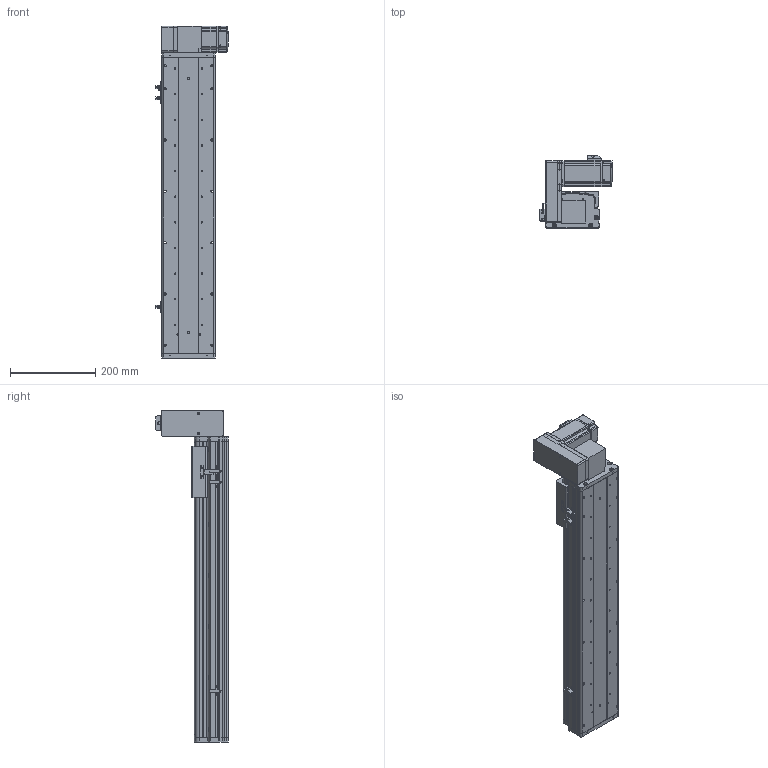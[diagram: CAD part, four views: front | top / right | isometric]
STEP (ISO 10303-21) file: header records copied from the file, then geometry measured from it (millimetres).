
FILE_DESCRIPTION (( 'STEP AP214' ), '1' );
FILE_NAME ('KSD125B-S500-MRU-CM.STEP', '2017-10-21T07:27:01', ( '微软用户' ), ( '微软中国' ), 'SwSTEP 2.0', 'SolidWorks 2014', '' );
FILE_SCHEMA (( 'AUTOMOTIVE_DESIGN' ));
Length unit declared in the file: millimetre
Products named in the file (17): KSD125B-S500-MRU-CM; 悵誘欶奻狟殏; HTPA30S3M150_A_H6_a佪裝蚚; HTPA30S3M150_A_H6_a萇儂蚚; 100宽马达安装板连板上下折丝杆同步带; MHMD042G1CA_2_03; KSD125模组同步带-防撞垫2; 覜茼え68遵圉猾敕; U倰嫖萇假蚾璃; U倰嫖萇EEㄜSX672; KSD125模组同步带-防撞垫1; 100宽马达安装板同步带右; 前端板-125宽模组同步带; 125模组同步带-尾端板1; KSD125模组500行程同步带-防尘盖; KSD125模组同步带-滑动座1; 125模组500行程同步带-底板
Assembly tree (20 placements, depth 2):
  KSD125B-S500-MRU-CM
    125模组500行程同步带-底板
    KSD125模组同步带-滑动座1
    KSD125模组500行程同步带-防尘盖
    125模组同步带-尾端板1
    前端板-125宽模组同步带
    100宽马达安装板同步带右
    KSD125模组同步带-防撞垫1
    U倰嫖萇EEㄜSX672  x3
    U倰嫖萇假蚾璃  x3
    覜茼え68遵圉猾敕
    KSD125模组同步带-防撞垫2
    MHMD042G1CA_2_03
    100宽马达安装板连板上下折丝杆同步带
    HTPA30S3M150_A_H6_a萇儂蚚
    HTPA30S3M150_A_H6_a佪裝蚚
    悵誘欶奻狟殏
Bounding box: 168.7 x 170.5 x 777 mm (x, y, z)
Volume: 2588974.6 mm3; surface area: 901279.6 mm2
Topology: 19 solids, 22 shells, 2249 faces, 6511 edges, 4302 vertices
Faces by surface type: cylinder 1400, plane 722, cone 105, bspline 22
Entity records: 79709 total; most frequent: CARTESIAN_POINT 15777, DIRECTION 12400, ORIENTED_EDGE 11542, EDGE_CURVE 5849, AXIS2_PLACEMENT_3D 4785, VERTEX_POINT 3894, LINE 2830, VECTOR 2830
